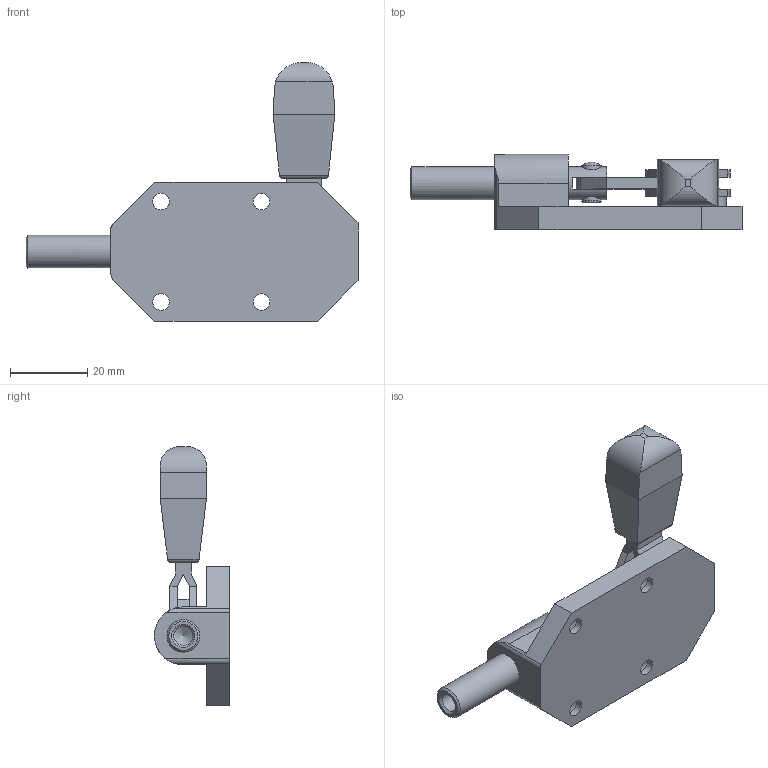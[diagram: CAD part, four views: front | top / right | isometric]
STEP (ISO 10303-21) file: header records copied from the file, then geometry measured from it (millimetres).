
FILE_DESCRIPTION( ( 'STEP AP203' ), '1' );
FILE_NAME( 'C:/Temp/Ganter_Step_05_03_2020/data/2_4/gn_844/gn_844_ass/Plunger clamp GN 844-70-ASS (closed).stp', '2020-03-13T05:55:32', ( 'License CC BY-ND 4.0' ), ( 'CADENAS' ), ' ', 'PARTsolutions', ' ' );
FILE_SCHEMA( ( 'CONFIG_CONTROL_DESIGN' ) );
Length unit declared in the file: millimetre
Products named in the file (5): Plunger clamp GN 844-70-ASS (closed); _GN 844-70-ASS-1; _GN 844-70-ASS0-2; _GN 844-70-ASS0-3; _GN 844-70-ASS0-4
Assembly tree (4 placements, depth 2):
  Plunger clamp GN 844-70-ASS (closed)
    _GN 844-70-ASS-1
    _GN 844-70-ASS0-2
    _GN 844-70-ASS0-3
    _GN 844-70-ASS0-4
Bounding box: 86 x 19.5 x 67 mm (x, y, z)
Volume: 23480.2 mm3; surface area: 12883.5 mm2
Topology: 4 solids, 4 shells, 112 faces, 279 edges, 185 vertices
Faces by surface type: plane 64, cylinder 42, cone 4, torus 1, bspline 1
Full cylindrical faces by diameter (mm): 3 x1, 3.5 x6, 4.3 x4, 4.917 x1, 5 x2, 6 x3, 7.3 x4, 8.5 x2, 10 x1
Entity records: 3539 total; most frequent: CARTESIAN_POINT 766, DIRECTION 548, ORIENTED_EDGE 478, EDGE_CURVE 239, AXIS2_PLACEMENT_3D 201, VERTEX_POINT 177, EDGE_LOOP 176, LINE 146
